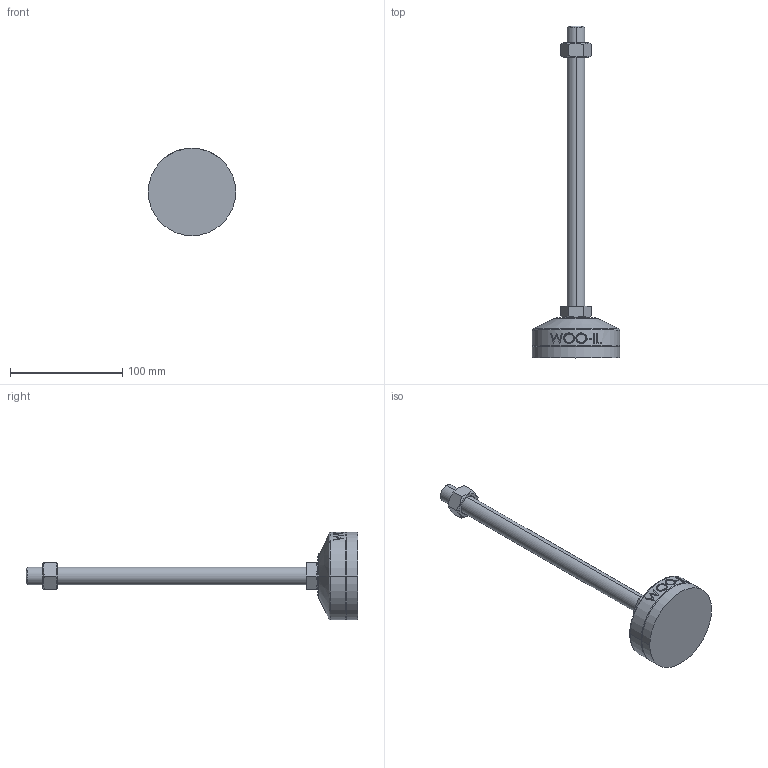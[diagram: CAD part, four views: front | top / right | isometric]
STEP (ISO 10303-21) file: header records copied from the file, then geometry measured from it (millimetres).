
FILE_DESCRIPTION (( 'STEP AP214' ), '1' );
FILE_NAME ('MFZR78-M16-250.step', '2021-03-29T06:57:58', ( '' ), ( '' ), 'SwSTEP 2.0', 'SolidWorks 2019', '' );
FILE_SCHEMA (( 'AUTOMOTIVE_DESIGN' ));
Length unit declared in the file: millimetre
Products named in the file (2): MFZR78-M16-250
Bounding box: 78 x 296 x 78 mm (x, y, z)
Volume: 208127.8 mm3; surface area: 42277.8 mm2
Topology: 4 solids, 4 shells, 103 faces, 235 edges, 150 vertices
Faces by surface type: plane 49, cylinder 18, bspline 16, cone 14, torus 6
Entity records: 4499 total; most frequent: CARTESIAN_POINT 2226, ORIENTED_EDGE 470, DIRECTION 417, EDGE_CURVE 235, AXIS2_PLACEMENT_3D 159, VERTEX_POINT 150, EDGE_LOOP 115, ADVANCED_FACE 103
